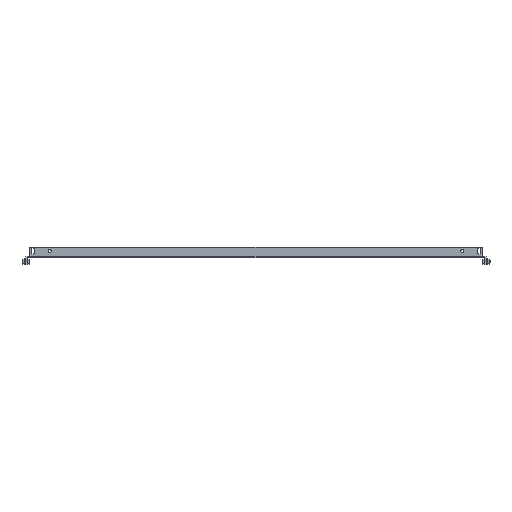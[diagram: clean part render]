
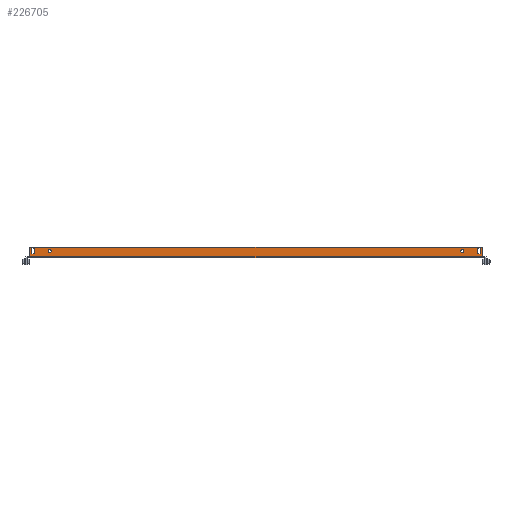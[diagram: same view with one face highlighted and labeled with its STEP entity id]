
A CAD part, front view. The second image highlights one B-rep face of the part: STEP entity #226705.
In plain terms, the highlighted planar face has unit normal (0, -1, 0).
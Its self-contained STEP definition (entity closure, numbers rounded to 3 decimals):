
#179832 = VERTEX_POINT('',#179833);
#179833 = CARTESIAN_POINT('',(541.5,-384.5,0.));
#179839 = EDGE_CURVE('',#179840,#179832,#179842,.T.);
#179840 = VERTEX_POINT('',#179841);
#179841 = CARTESIAN_POINT('',(-541.5,-384.5,0.));
#179842 = LINE('',#179843,#179844);
#179843 = CARTESIAN_POINT('',(-541.5,-384.5,0.));
#179844 = VECTOR('',#179845,1.);
#179845 = DIRECTION('',(1.,-0.,-0.));
#226584 = VERTEX_POINT('',#226585);
#226585 = CARTESIAN_POINT('',(-541.5,-384.5,3.1));
#226600 = EDGE_CURVE('',#226584,#179840,#226601,.T.);
#226601 = LINE('',#226602,#226603);
#226602 = CARTESIAN_POINT('',(-541.5,-384.5,3.1));
#226603 = VECTOR('',#226604,1.);
#226604 = DIRECTION('',(0.,0.,-1.));
#226624 = VERTEX_POINT('',#226625);
#226625 = CARTESIAN_POINT('',(541.5,-384.5,3.1));
#226631 = EDGE_CURVE('',#226624,#179832,#226632,.T.);
#226632 = LINE('',#226633,#226634);
#226633 = CARTESIAN_POINT('',(541.5,-384.5,2.5));
#226634 = VECTOR('',#226635,1.);
#226635 = DIRECTION('',(-0.,0.,-1.));
#226657 = VERTEX_POINT('',#226658);
#226658 = CARTESIAN_POINT('',(541.5,-384.5,26.));
#226664 = EDGE_CURVE('',#226624,#226657,#226665,.T.);
#226665 = LINE('',#226666,#226667);
#226666 = CARTESIAN_POINT('',(541.5,-384.5,26.));
#226667 = VECTOR('',#226668,1.);
#226668 = DIRECTION('',(0.,0.,1.));
#226679 = EDGE_CURVE('',#226680,#226584,#226682,.T.);
#226680 = VERTEX_POINT('',#226681);
#226681 = CARTESIAN_POINT('',(-541.5,-384.5,26.));
#226682 = LINE('',#226683,#226684);
#226683 = CARTESIAN_POINT('',(-541.5,-384.5,2.5));
#226684 = VECTOR('',#226685,1.);
#226685 = DIRECTION('',(0.,0.,-1.));
#226705 = ADVANCED_FACE('',(#226706,#226740,#226751,#226762,#226796),
  #226809,.F.);
#226706 = FACE_BOUND('',#226707,.T.);
#226707 = EDGE_LOOP('',(#226708,#226718,#226726,#226734));
#226708 = ORIENTED_EDGE('',*,*,#226709,.F.);
#226709 = EDGE_CURVE('',#226710,#226712,#226714,.T.);
#226710 = VERTEX_POINT('',#226711);
#226711 = CARTESIAN_POINT('',(536.,-384.5,9.5));
#226712 = VERTEX_POINT('',#226713);
#226713 = CARTESIAN_POINT('',(536.,-384.5,23.5));
#226714 = LINE('',#226715,#226716);
#226715 = CARTESIAN_POINT('',(536.,-384.5,23.5));
#226716 = VECTOR('',#226717,1.);
#226717 = DIRECTION('',(-0.,-0.,1.));
#226718 = ORIENTED_EDGE('',*,*,#226719,.F.);
#226719 = EDGE_CURVE('',#226720,#226710,#226722,.T.);
#226720 = VERTEX_POINT('',#226721);
#226721 = CARTESIAN_POINT('',(529.,-384.5,9.5));
#226722 = LINE('',#226723,#226724);
#226723 = CARTESIAN_POINT('',(536.,-384.5,9.5));
#226724 = VECTOR('',#226725,1.);
#226725 = DIRECTION('',(1.,-0.,-0.));
#226726 = ORIENTED_EDGE('',*,*,#226727,.F.);
#226727 = EDGE_CURVE('',#226728,#226720,#226730,.T.);
#226728 = VERTEX_POINT('',#226729);
#226729 = CARTESIAN_POINT('',(529.,-384.5,23.5));
#226730 = LINE('',#226731,#226732);
#226731 = CARTESIAN_POINT('',(529.,-384.5,9.5));
#226732 = VECTOR('',#226733,1.);
#226733 = DIRECTION('',(-0.,-0.,-1.));
#226734 = ORIENTED_EDGE('',*,*,#226735,.F.);
#226735 = EDGE_CURVE('',#226712,#226728,#226736,.T.);
#226736 = LINE('',#226737,#226738);
#226737 = CARTESIAN_POINT('',(529.,-384.5,23.5));
#226738 = VECTOR('',#226739,1.);
#226739 = DIRECTION('',(-1.,-0.,-0.));
#226740 = FACE_BOUND('',#226741,.T.);
#226741 = EDGE_LOOP('',(#226742));
#226742 = ORIENTED_EDGE('',*,*,#226743,.F.);
#226743 = EDGE_CURVE('',#226744,#226744,#226746,.T.);
#226744 = VERTEX_POINT('',#226745);
#226745 = CARTESIAN_POINT('',(493.,-384.5,20.));
#226746 = CIRCLE('',#226747,3.5);
#226747 = AXIS2_PLACEMENT_3D('',#226748,#226749,#226750);
#226748 = CARTESIAN_POINT('',(493.,-384.5,16.5));
#226749 = DIRECTION('',(0.,-1.,0.));
#226750 = DIRECTION('',(0.,0.,1.));
#226751 = FACE_BOUND('',#226752,.T.);
#226752 = EDGE_LOOP('',(#226753));
#226753 = ORIENTED_EDGE('',*,*,#226754,.F.);
#226754 = EDGE_CURVE('',#226755,#226755,#226757,.T.);
#226755 = VERTEX_POINT('',#226756);
#226756 = CARTESIAN_POINT('',(-493.,-384.5,13.));
#226757 = CIRCLE('',#226758,3.5);
#226758 = AXIS2_PLACEMENT_3D('',#226759,#226760,#226761);
#226759 = CARTESIAN_POINT('',(-493.,-384.5,16.5));
#226760 = DIRECTION('',(0.,-1.,0.));
#226761 = DIRECTION('',(0.,0.,-1.));
#226762 = FACE_BOUND('',#226763,.T.);
#226763 = EDGE_LOOP('',(#226764,#226774,#226782,#226790));
#226764 = ORIENTED_EDGE('',*,*,#226765,.F.);
#226765 = EDGE_CURVE('',#226766,#226768,#226770,.T.);
#226766 = VERTEX_POINT('',#226767);
#226767 = CARTESIAN_POINT('',(-536.,-384.5,23.5));
#226768 = VERTEX_POINT('',#226769);
#226769 = CARTESIAN_POINT('',(-536.,-384.5,9.5));
#226770 = LINE('',#226771,#226772);
#226771 = CARTESIAN_POINT('',(-536.,-384.5,9.5));
#226772 = VECTOR('',#226773,1.);
#226773 = DIRECTION('',(-0.,-0.,-1.));
#226774 = ORIENTED_EDGE('',*,*,#226775,.F.);
#226775 = EDGE_CURVE('',#226776,#226766,#226778,.T.);
#226776 = VERTEX_POINT('',#226777);
#226777 = CARTESIAN_POINT('',(-529.,-384.5,23.5));
#226778 = LINE('',#226779,#226780);
#226779 = CARTESIAN_POINT('',(-536.,-384.5,23.5));
#226780 = VECTOR('',#226781,1.);
#226781 = DIRECTION('',(-1.,-0.,-0.));
#226782 = ORIENTED_EDGE('',*,*,#226783,.F.);
#226783 = EDGE_CURVE('',#226784,#226776,#226786,.T.);
#226784 = VERTEX_POINT('',#226785);
#226785 = CARTESIAN_POINT('',(-529.,-384.5,9.5));
#226786 = LINE('',#226787,#226788);
#226787 = CARTESIAN_POINT('',(-529.,-384.5,23.5));
#226788 = VECTOR('',#226789,1.);
#226789 = DIRECTION('',(-0.,-0.,1.));
#226790 = ORIENTED_EDGE('',*,*,#226791,.F.);
#226791 = EDGE_CURVE('',#226768,#226784,#226792,.T.);
#226792 = LINE('',#226793,#226794);
#226793 = CARTESIAN_POINT('',(-529.,-384.5,9.5));
#226794 = VECTOR('',#226795,1.);
#226795 = DIRECTION('',(1.,-0.,-0.));
#226796 = FACE_BOUND('',#226797,.T.);
#226797 = EDGE_LOOP('',(#226798,#226799,#226800,#226801,#226802,#226803)
  );
#226798 = ORIENTED_EDGE('',*,*,#226679,.T.);
#226799 = ORIENTED_EDGE('',*,*,#226600,.T.);
#226800 = ORIENTED_EDGE('',*,*,#179839,.T.);
#226801 = ORIENTED_EDGE('',*,*,#226631,.F.);
#226802 = ORIENTED_EDGE('',*,*,#226664,.T.);
#226803 = ORIENTED_EDGE('',*,*,#226804,.T.);
#226804 = EDGE_CURVE('',#226657,#226680,#226805,.T.);
#226805 = LINE('',#226806,#226807);
#226806 = CARTESIAN_POINT('',(-541.5,-384.5,26.));
#226807 = VECTOR('',#226808,1.);
#226808 = DIRECTION('',(-1.,-0.,-0.));
#226809 = PLANE('',#226810);
#226810 = AXIS2_PLACEMENT_3D('',#226811,#226812,#226813);
#226811 = CARTESIAN_POINT('',(541.5,-384.5,2.5));
#226812 = DIRECTION('',(-0.,1.,0.));
#226813 = DIRECTION('',(0.,0.,1.));
